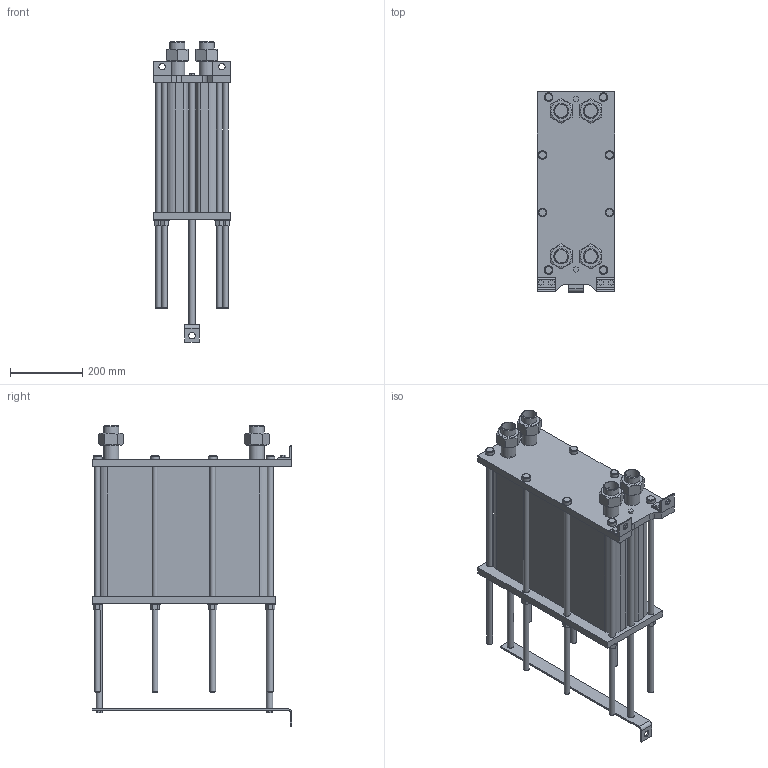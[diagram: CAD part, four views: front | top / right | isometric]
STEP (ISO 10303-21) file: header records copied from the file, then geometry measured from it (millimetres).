
FILE_DESCRIPTION(/* description */ (''),/* implementation_level */ '2;1');
FILE_NAME(/* name */ 'C:\Users\zhuro\Desktop\ENCO\TO\ЭН-004\ЭН-0,5-004-116-1.stp',/* time_stamp */ '2022-06-06T10:54:09+03:00',/* author */ ('zhuro'),/* organization */ (''),/* preprocessor_version */ 'ST-DEVELOPER v18.1',/* originating_system */ 'Autodesk Inventor 2022',/* authorisation */ '');
FILE_SCHEMA (('AUTOMOTIVE_DESIGN { 1 0 10303 214 3 1 1 }'));
Length unit declared in the file: millimetre
Products named in the file (1): ЭН-0,5-004-116-1
Bounding box: 216 x 555 x 833.8 mm (x, y, z)
Volume: 32779328.2 mm3; surface area: 1737212.2 mm2
Topology: 40 solids, 40 shells, 403 faces, 865 edges, 574 vertices
Faces by surface type: plane 272, cylinder 103, cone 28
Full cylindrical faces by diameter (mm): 10 x4, 16 x16, 18 x29, 20 x2, 24 x8, 28 x8, 36.3 x5, 42.3 x9
Entity records: 11137 total; most frequent: CARTESIAN_POINT 1939, DIRECTION 1879, ORIENTED_EDGE 1730, EDGE_CURVE 865, AXIS2_PLACEMENT_3D 658, VERTEX_POINT 574, LINE 563, VECTOR 563
